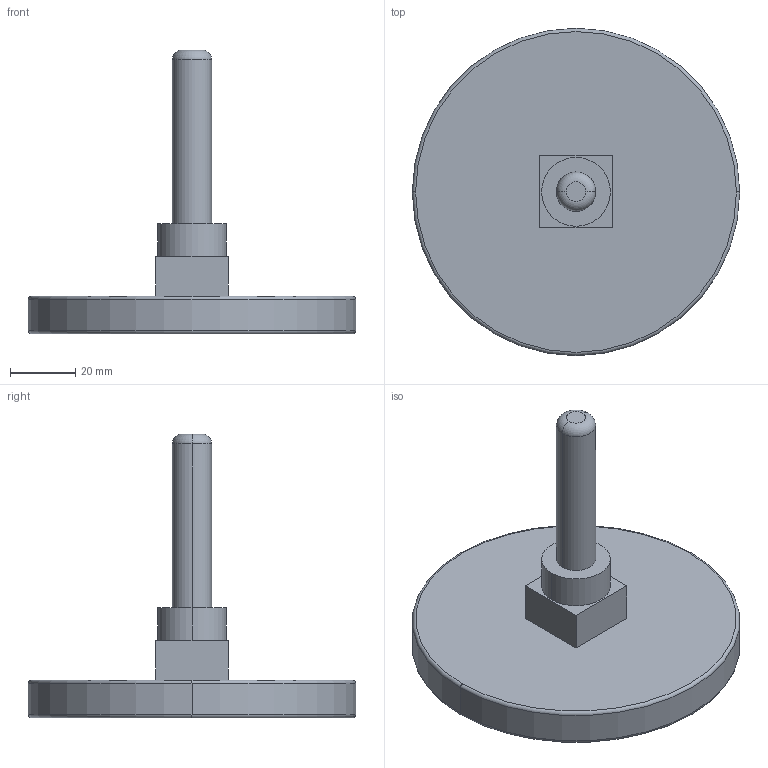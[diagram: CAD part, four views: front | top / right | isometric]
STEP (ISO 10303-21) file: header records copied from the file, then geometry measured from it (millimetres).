
FILE_DESCRIPTION (( 'STEP AP214' ), '1' );
FILE_NAME ('Termometr_bimetaliczny_x_0_3D_AFRISO.STEP', '2022-12-16T14:05:13', ( '' ), ( '' ), 'SwSTEP 2.0', 'SolidWorks 2022', '' );
FILE_SCHEMA (( 'AUTOMOTIVE_DESIGN' ));
Length unit declared in the file: millimetre
Products named in the file (1): Termometr_bimetaliczny_x_0_3D_AFRISO
Bounding box: 100 x 100 x 86.7 mm (x, y, z)
Volume: 105484.4 mm3; surface area: 22729.1 mm2
Topology: 1 solids, 1 shells, 21 faces, 42 edges, 26 vertices
Faces by surface type: plane 9, torus 6, cylinder 6
Entity records: 586 total; most frequent: DIRECTION 110, CARTESIAN_POINT 90, ORIENTED_EDGE 84, AXIS2_PLACEMENT_3D 46, EDGE_CURVE 42, VERTEX_POINT 26, EDGE_LOOP 24, CIRCLE 24
